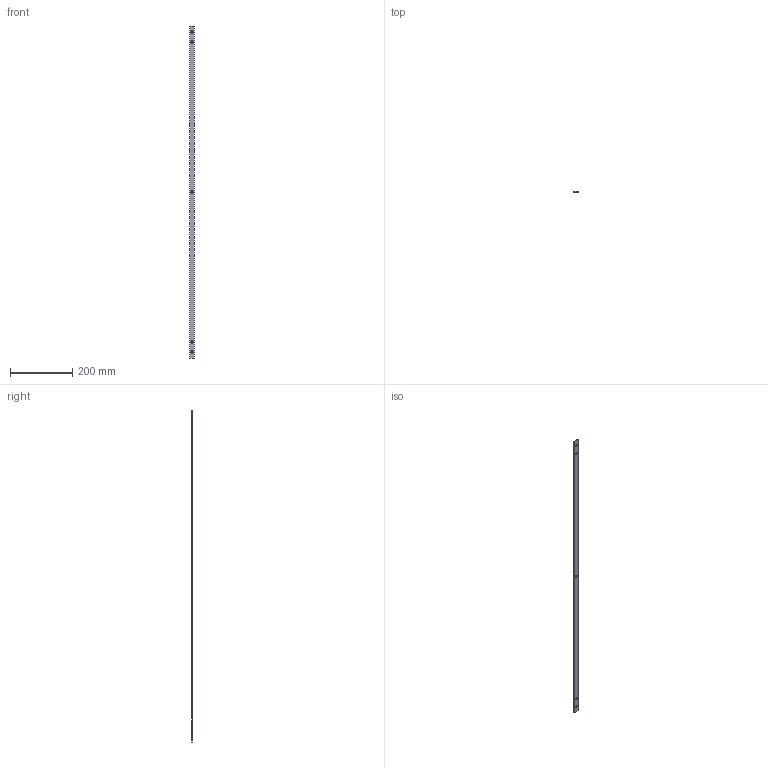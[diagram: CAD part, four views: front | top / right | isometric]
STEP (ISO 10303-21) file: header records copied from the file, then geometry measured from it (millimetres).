
FILE_DESCRIPTION( ( 'Unknown' ), '1' );
FILE_NAME( 'Q:/ACCESSORIES/WEB DRAWINGS/STEP/CBB42.stp', 'Unknown', ( 'Unknown' ), ( 'Unknown' ), 'XStep 1.0', 'Unknown', ' ' );
FILE_SCHEMA( ( 'CONFIG_CONTROL_DESIGN' ) );
Length unit declared in the file: millimetre
Products named in the file (1): 1
Bounding box: 15.88 x 3.17 x 1066.8 mm (x, y, z)
Volume: 52987 mm3; surface area: 40647.9 mm2
Topology: 1 solids, 1 shells, 11 faces, 32 edges, 23 vertices
Faces by surface type: plane 6, cylinder 5
Full cylindrical faces by diameter (mm): 7.925 x5
Entity records: 370 total; most frequent: DIRECTION 56, CARTESIAN_POINT 52, ORIENTED_EDGE 44, EDGE_LOOP 26, AXIS2_PLACEMENT_3D 22, EDGE_CURVE 22, VERTEX_POINT 18, FACE_OUTER_BOUND 16
